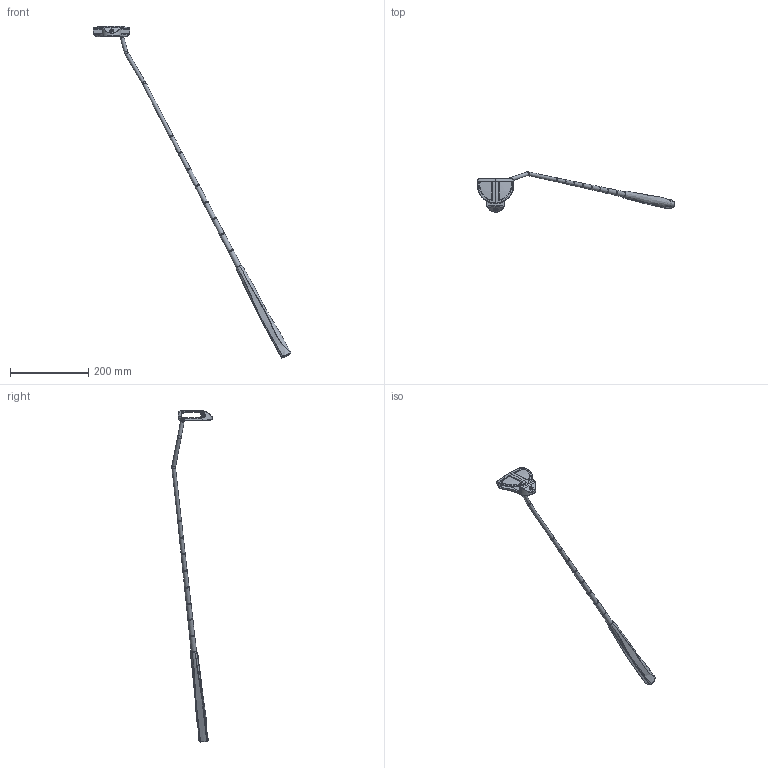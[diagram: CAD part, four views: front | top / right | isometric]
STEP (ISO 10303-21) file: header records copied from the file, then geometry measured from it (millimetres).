
FILE_DESCRIPTION(/* description */ (''),/* implementation_level */ '2;1');
FILE_NAME(/* name */ 'C:\Users\Kuba\Desktop\inventory\golfclub.stp',/* time_stamp */ '2019-07-01T14:17:36+02:00',/* author */ ('Kuba'),/* organization */ (''),/* preprocessor_version */ 'ST-DEVELOPER v17',/* originating_system */ 'Autodesk Inventor 2019',/* authorisation */ '');
FILE_SCHEMA (('AUTOMOTIVE_DESIGN { 1 0 10303 214 3 1 1 }'));
Length unit declared in the file: millimetre
Products named in the file (1): bodz
Bounding box: 505.21 x 103.2 x 848.03 mm (x, y, z)
Volume: 244321.1 mm3; surface area: 68336.9 mm2
Topology: 1 solids, 1 shells, 577 faces, 1478 edges, 957 vertices
Faces by surface type: bspline 275, plane 211, cylinder 63, sphere 17, torus 10, cone 1
Full cylindrical faces by diameter (mm): 1.5 x2, 2.5 x3, 3 x1, 3.5 x2, 3.9 x1, 4.5 x2, 5.3 x1, 5.5 x2, 6.7 x1, 8.1 x1, 9.2 x1, 9.5 x4, 10 x1, 10.5 x1, 11 x1, 11.5 x1, 12 x1, 12.5 x1, 13 x1, 13.5 x1
Entity records: 28597 total; most frequent: CARTESIAN_POINT 15701, ORIENTED_EDGE 2918, DIRECTION 1817, EDGE_CURVE 1459, VERTEX_POINT 957, EDGE_LOOP 652, AXIS2_PLACEMENT_3D 627, STYLED_ITEM 578
